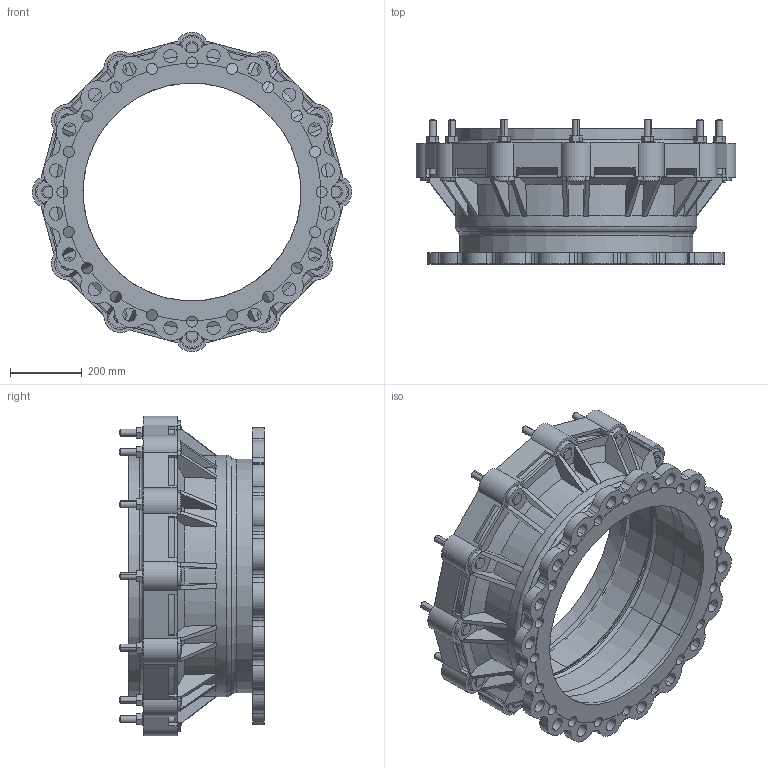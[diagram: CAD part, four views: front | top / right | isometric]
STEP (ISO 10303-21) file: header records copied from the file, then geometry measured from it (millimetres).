
FILE_DESCRIPTION((''),'2;1');
FILE_NAME('BIM_13199_19_ASM','2020-09-10T',('MReader'),(''),'CREO PARAMETRIC BY PTC INC, 2016130','CREO PARAMETRIC BY PTC INC, 2016130','');
FILE_SCHEMA(('CONFIG_CONTROL_DESIGN'));
Length unit declared in the file: millimetre
Products named in the file (6): 604-648X600; 604-648_GASKET_BIM; _BIM_13417_4; BIM_M20_BOLT; BIM_M20_NUT; BIM_13199_19_ASM
Assembly tree (27 placements, depth 2):
  BIM_13199_19_ASM
    604-648X600
    604-648_GASKET_BIM
    _BIM_13417_4
    BIM_M20_BOLT  x12
    BIM_M20_NUT  x12
Bounding box: 893.67 x 406 x 893.67 mm (x, y, z)
Volume: 26717577.8 mm3; surface area: 4039666.6 mm2
Topology: 27 solids, 27 shells, 907 faces, 2488 edges, 1632 vertices
Faces by surface type: plane 431, cylinder 376, cone 70, sphere 24, torus 6
Entity records: 22719 total; most frequent: CARTESIAN_POINT 4398, DIRECTION 3912, ORIENTED_EDGE 3828, EDGE_CURVE 1914, AXIS2_PLACEMENT_3D 1527, VERTEX_POINT 1269, VECTOR 858, LINE 858
